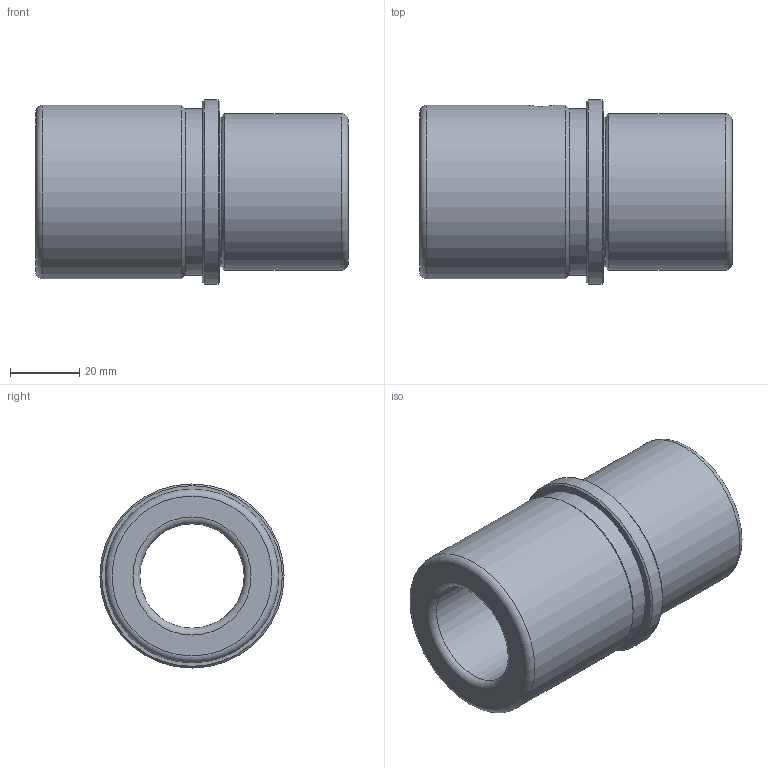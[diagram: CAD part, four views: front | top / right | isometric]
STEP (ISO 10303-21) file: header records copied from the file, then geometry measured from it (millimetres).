
FILE_DESCRIPTION( ( 'STEP AP214' ), '1' );
FILE_NAME( 'p:/temp/worker_873/temp/exporttempdir_5764_337_xWvKN/format_1/WZ - 4051 30 x 90.stp', '2020-12-03T19:51:15', ( 'License CC BY-ND 4.0' ), ( 'CADENAS' ), ' ', 'PARTsolutions', ' ' );
FILE_SCHEMA( ( 'AUTOMOTIVE_DESIGN { 1 0 10303 214 1 1 1 1 }' ) );
Length unit declared in the file: millimetre
Products named in the file (1): _WZ - 4051 30 x 90
Bounding box: 90 x 53 x 53 mm (x, y, z)
Volume: 98250 mm3; surface area: 25292.1 mm2
Topology: 1 solids, 1 shells, 21 faces, 38 edges, 22 vertices
Faces by surface type: cylinder 7, cone 5, plane 5, torus 4
Full cylindrical faces by diameter (mm): 8.376 x1, 30 x1, 43 x1, 45 x1, 48 x1, 50 x1, 53 x1
Entity records: 750 total; most frequent: CARTESIAN_POINT 196, DIRECTION 84, EDGE_LOOP 44, ORIENTED_EDGE 44, AXIS2_PLACEMENT_3D 42, FACE_OUTER_BOUND 32, EDGE_CURVE 22, VERTEX_POINT 22
